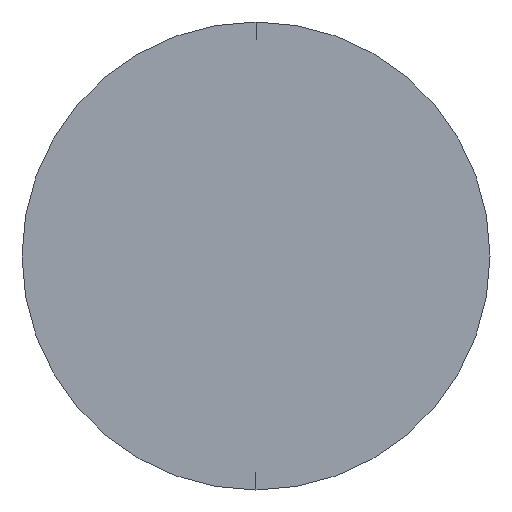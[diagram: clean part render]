
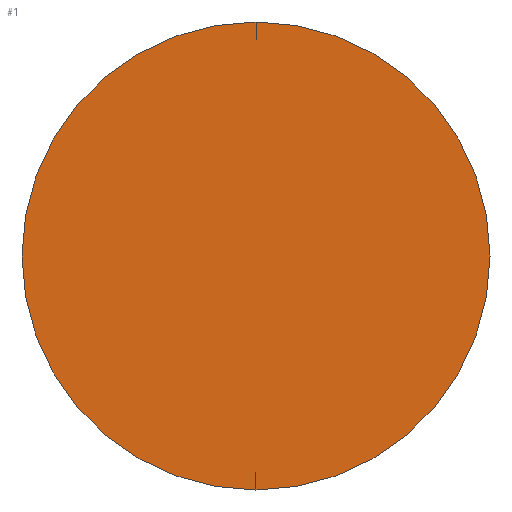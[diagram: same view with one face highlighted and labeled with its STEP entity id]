
A CAD part, left-side view. The second image highlights one B-rep face of the part: STEP entity #1.
In plain terms, the highlighted planar face has unit normal (-1, 0, 0).
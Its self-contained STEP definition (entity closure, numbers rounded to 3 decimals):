
#1 = ADVANCED_FACE ( 'NONE', ( #144 ), #189, .F. ) ;
#19 = EDGE_CURVE ( 'NONE', #272, #58, #136, .T. ) ;
#31 = CARTESIAN_POINT ( 'NONE',  ( 0., 0., 0. ) ) ;
#58 = VERTEX_POINT ( 'NONE', #151 ) ;
#91 = CIRCLE ( 'NONE', #148, 1.1 ) ;
#105 = AXIS2_PLACEMENT_3D ( 'NONE', #251, #248, #245 ) ;
#111 = AXIS2_PLACEMENT_3D ( 'NONE', #225, #172, #274 ) ;
#133 = EDGE_CURVE ( 'NONE', #58, #272, #91, .T. ) ;
#136 = CIRCLE ( 'NONE', #105, 1.1 ) ;
#140 = EDGE_LOOP ( 'NONE', ( #278, #265 ) ) ;
#144 = FACE_OUTER_BOUND ( 'NONE', #140, .T. ) ;
#148 = AXIS2_PLACEMENT_3D ( 'NONE', #31, #260, #163 ) ;
#151 = CARTESIAN_POINT ( 'NONE',  ( 0., 0., -1.1 ) ) ;
#163 = DIRECTION ( 'NONE',  ( 0., 0., 1. ) ) ;
#172 = DIRECTION ( 'NONE',  ( 1., 0., 0. ) ) ;
#189 = PLANE ( 'NONE',  #111 ) ;
#225 = CARTESIAN_POINT ( 'NONE',  ( 0., 0., 0. ) ) ;
#230 = CARTESIAN_POINT ( 'NONE',  ( 0., 0., 1.1 ) ) ;
#245 = DIRECTION ( 'NONE',  ( 0., 0., 1. ) ) ;
#248 = DIRECTION ( 'NONE',  ( -1., 0., 0. ) ) ;
#251 = CARTESIAN_POINT ( 'NONE',  ( 0., 0., 0. ) ) ;
#260 = DIRECTION ( 'NONE',  ( -1., 0., 0. ) ) ;
#265 = ORIENTED_EDGE ( 'NONE', *, *, #133, .T. ) ;
#272 = VERTEX_POINT ( 'NONE', #230 ) ;
#274 = DIRECTION ( 'NONE',  ( 0., 0., -1. ) ) ;
#278 = ORIENTED_EDGE ( 'NONE', *, *, #19, .T. ) ;
